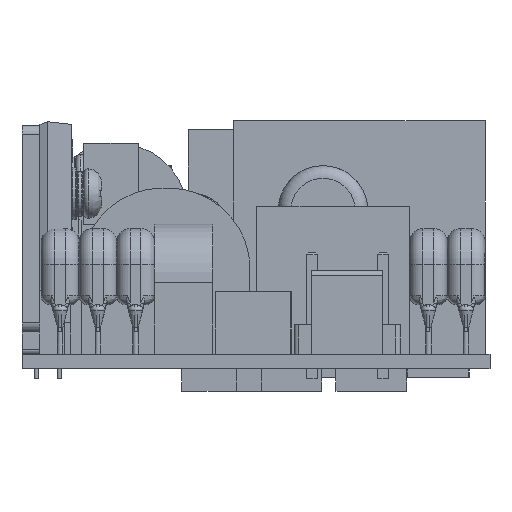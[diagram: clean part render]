
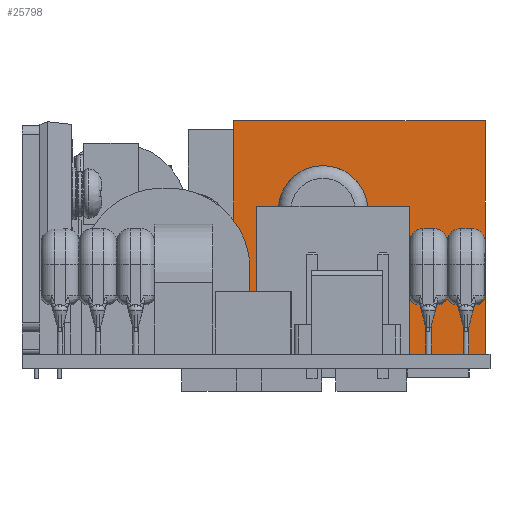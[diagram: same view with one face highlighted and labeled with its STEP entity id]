
A CAD part, left-side view. The second image highlights one B-rep face of the part: STEP entity #25798.
In plain terms, the highlighted planar face has unit normal (-1, 0, 0).
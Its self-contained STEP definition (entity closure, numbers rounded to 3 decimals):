
#1381=FACE_OUTER_BOUND($,#2744,.T.);
#2744=EDGE_LOOP($,(#17158,#17159,#17160,#17161));
#4653=LINE($,#35724,#7642);
#4863=LINE($,#36228,#7852);
#4864=LINE($,#36231,#7853);
#4865=LINE($,#36232,#7854);
#7642=VECTOR($,#29202,28.016);
#7852=VECTOR($,#29606,26.);
#7853=VECTOR($,#29609,28.016);
#7854=VECTOR($,#29610,26.);
#10614=VERTEX_POINT($,#35717);
#10617=VERTEX_POINT($,#35722);
#10814=VERTEX_POINT($,#36226);
#10815=VERTEX_POINT($,#36230);
#13089=EDGE_CURVE($,#10617,#10614,#4653,.T.);
#13337=EDGE_CURVE($,#10617,#10814,#4863,.T.);
#13338=EDGE_CURVE($,#10815,#10814,#4864,.T.);
#13339=EDGE_CURVE($,#10614,#10815,#4865,.T.);
#17158=ORIENTED_EDGE($,*,*,#13089,.F.);
#17159=ORIENTED_EDGE($,*,*,#13337,.T.);
#17160=ORIENTED_EDGE($,*,*,#13338,.F.);
#17161=ORIENTED_EDGE($,*,*,#13339,.F.);
#23676=PLANE($,#27232);
#25798=ADVANCED_FACE($,(#1381),#23676,.T.);
#27232=AXIS2_PLACEMENT_3D($,#36229,#29607,#29608);
#29202=DIRECTION($,(0.,1.,0.));
#29606=DIRECTION($,(0.,0.,1.));
#29607=DIRECTION('center_axis',(-1.,0.,0.));
#29608=DIRECTION('ref_axis',(0.,-1.,0.));
#29609=DIRECTION($,(0.,-1.,0.));
#29610=DIRECTION($,(0.,0.,1.));
#35717=CARTESIAN_POINT('',(31.032,30.821,1.6));
#35722=CARTESIAN_POINT('',(31.032,2.805,1.6));
#35724=CARTESIAN_POINT($,(31.032,29.571,1.6));
#36226=CARTESIAN_POINT('',(31.032,2.805,27.6));
#36228=CARTESIAN_POINT($,(31.032,2.805,1.6));
#36229=CARTESIAN_POINT('Origin',(31.032,30.821,1.6));
#36230=CARTESIAN_POINT('',(31.032,30.821,27.6));
#36231=CARTESIAN_POINT($,(31.032,2.805,27.6));
#36232=CARTESIAN_POINT($,(31.032,30.821,1.6));
